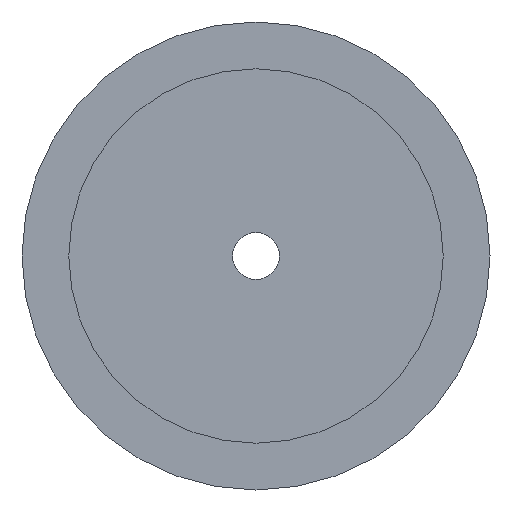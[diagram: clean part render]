
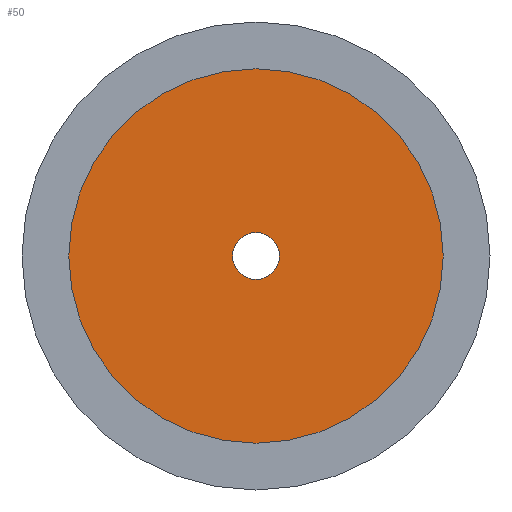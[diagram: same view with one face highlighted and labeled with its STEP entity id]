
A CAD part, left-side view. The second image highlights one B-rep face of the part: STEP entity #50.
In plain terms, the highlighted planar face has unit normal (-1, 0, 0).
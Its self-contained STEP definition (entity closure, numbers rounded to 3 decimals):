
#32 = ORIENTED_EDGE ( 'NONE', *, *, #33, .T. ) ;
#33 = EDGE_CURVE ( 'NONE', #490, #489, #134, .T. ) ;
#50 = ADVANCED_FACE ( 'NONE', ( #183, #182 ), #181, .F. ) ;
#51 = EDGE_LOOP ( 'NONE', ( #52, #54 ) ) ;
#52 = ORIENTED_EDGE ( 'NONE', *, *, #53, .F. ) ;
#53 = EDGE_CURVE ( 'NONE', #96, #93, #176, .T. ) ;
#54 = ORIENTED_EDGE ( 'NONE', *, *, #95, .F. ) ;
#55 = EDGE_LOOP ( 'NONE', ( #56, #32 ) ) ;
#56 = ORIENTED_EDGE ( 'NONE', *, *, #498, .T. ) ;
#93 = VERTEX_POINT ( 'NONE', #243 ) ;
#95 = EDGE_CURVE ( 'NONE', #93, #96, #238, .T. ) ;
#96 = VERTEX_POINT ( 'NONE', #233 ) ;
#130 = DIRECTION ( 'NONE',  ( 0., 0., -1. ) ) ;
#131 = DIRECTION ( 'NONE',  ( 1., 0., 0. ) ) ;
#132 = CARTESIAN_POINT ( 'NONE',  ( 0., 0., 0. ) ) ;
#133 = AXIS2_PLACEMENT_3D ( 'NONE', #132, #131, #130 ) ;
#134 = CIRCLE ( 'NONE', #133, 1.5 ) ;
#172 = DIRECTION ( 'NONE',  ( 0., 0., -1. ) ) ;
#173 = DIRECTION ( 'NONE',  ( 1., 0., 0. ) ) ;
#174 = CARTESIAN_POINT ( 'NONE',  ( 0., 0., 0. ) ) ;
#175 = AXIS2_PLACEMENT_3D ( 'NONE', #174, #173, #172 ) ;
#176 = CIRCLE ( 'NONE', #175, 12. ) ;
#177 = DIRECTION ( 'NONE',  ( 0., 0., -1. ) ) ;
#178 = DIRECTION ( 'NONE',  ( 1., 0., 0. ) ) ;
#179 = CARTESIAN_POINT ( 'NONE',  ( 0., 0., 0. ) ) ;
#180 = AXIS2_PLACEMENT_3D ( 'NONE', #179, #178, #177 ) ;
#181 = PLANE ( 'NONE',  #180 ) ;
#182 = FACE_BOUND ( 'NONE', #55, .T. ) ;
#183 = FACE_OUTER_BOUND ( 'NONE', #51, .T. ) ;
#233 = CARTESIAN_POINT ( 'NONE',  ( 0., 0., 12. ) ) ;
#234 = DIRECTION ( 'NONE',  ( 0., 0., -1. ) ) ;
#235 = DIRECTION ( 'NONE',  ( 1., 0., 0. ) ) ;
#236 = CARTESIAN_POINT ( 'NONE',  ( 0., 0., 0. ) ) ;
#237 = AXIS2_PLACEMENT_3D ( 'NONE', #236, #235, #234 ) ;
#238 = CIRCLE ( 'NONE', #237, 12. ) ;
#243 = CARTESIAN_POINT ( 'NONE',  ( 0., 0., -12. ) ) ;
#289 = CARTESIAN_POINT ( 'NONE',  ( 0., 0., -1.5 ) ) ;
#293 = CARTESIAN_POINT ( 'NONE',  ( 0., 0., 1.5 ) ) ;
#302 = DIRECTION ( 'NONE',  ( 1., 0., 0. ) ) ;
#303 = CIRCLE ( 'NONE', #370, 1.5 ) ;
#315 = CARTESIAN_POINT ( 'NONE',  ( 0., 0., 0. ) ) ;
#332 = DIRECTION ( 'NONE',  ( 0., 0., -1. ) ) ;
#370 = AXIS2_PLACEMENT_3D ( 'NONE', #315, #302, #332 ) ;
#489 = VERTEX_POINT ( 'NONE', #293 ) ;
#490 = VERTEX_POINT ( 'NONE', #289 ) ;
#498 = EDGE_CURVE ( 'NONE', #489, #490, #303, .T. ) ;
